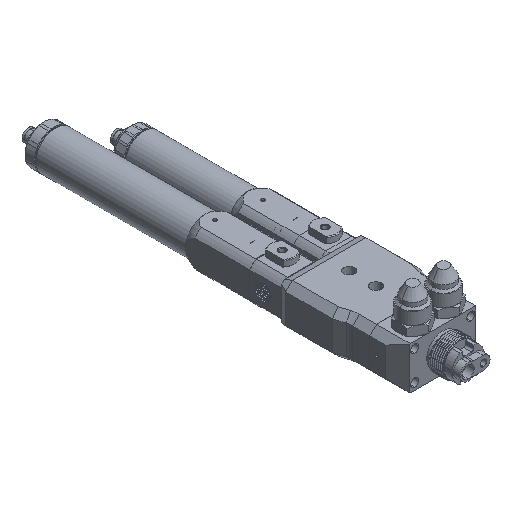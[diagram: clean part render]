
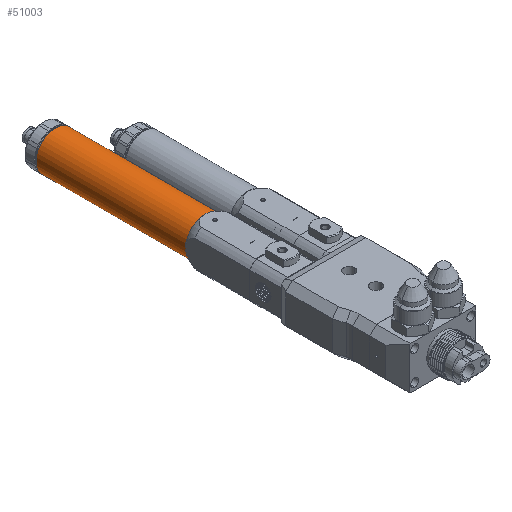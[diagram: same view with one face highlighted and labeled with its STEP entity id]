
A CAD part, isometric view. The second image highlights one B-rep face of the part: STEP entity #51003.
In plain terms, the highlighted cylindrical face has radius 14.5 mm (diameter 29 mm), a full revolution.
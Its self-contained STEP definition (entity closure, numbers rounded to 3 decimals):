
#908 = CARTESIAN_POINT ( 'NONE',  ( -196.632, -2.398, 987.004 ) ) ;
#6002 = DIRECTION ( 'NONE',  ( 0., 0., -1. ) ) ;
#8536 = CARTESIAN_POINT ( 'NONE',  ( -196.632, 113.339, 972.504 ) ) ;
#8693 = VERTEX_POINT ( 'NONE', #42860 ) ;
#8741 = FACE_OUTER_BOUND ( 'NONE', #42894, .T. ) ;
#12832 = DIRECTION ( 'NONE',  ( 0., 1., 0. ) ) ;
#13363 = VERTEX_POINT ( 'NONE', #8536 ) ;
#13554 = EDGE_CURVE ( 'NONE', #17511, #13363, #39791, .T. ) ;
#14194 = AXIS2_PLACEMENT_3D ( 'NONE', #23875, #28394, #34910 ) ;
#14494 = AXIS2_PLACEMENT_3D ( 'NONE', #45440, #18968, #37340 ) ;
#17377 = VERTEX_POINT ( 'NONE', #44223 ) ;
#17511 = VERTEX_POINT ( 'NONE', #20785 ) ;
#18494 = AXIS2_PLACEMENT_3D ( 'NONE', #54486, #54190, #30780 ) ;
#18968 = DIRECTION ( 'NONE',  ( 0., -1., 0. ) ) ;
#19031 = DIRECTION ( 'NONE',  ( 0., -1., 0. ) ) ;
#20785 = CARTESIAN_POINT ( 'NONE',  ( -196.632, 113.339, 1001.504 ) ) ;
#20968 = EDGE_CURVE ( 'NONE', #8693, #23110, #44949, .T. ) ;
#23110 = VERTEX_POINT ( 'NONE', #44905 ) ;
#23127 = ORIENTED_EDGE ( 'NONE', *, *, #29446, .T. ) ;
#23875 = CARTESIAN_POINT ( 'NONE',  ( -196.632, 1.539, 987.004 ) ) ;
#24922 = AXIS2_PLACEMENT_3D ( 'NONE', #40790, #59079, #44692 ) ;
#26398 = ORIENTED_EDGE ( 'NONE', *, *, #44677, .T. ) ;
#27279 = ORIENTED_EDGE ( 'NONE', *, *, #52834, .T. ) ;
#28259 = AXIS2_PLACEMENT_3D ( 'NONE', #51470, #19031, #46370 ) ;
#28394 = DIRECTION ( 'NONE',  ( 0., 1., 0. ) ) ;
#29446 = EDGE_CURVE ( 'NONE', #33850, #17377, #29958, .T. ) ;
#29958 = CIRCLE ( 'NONE', #18494, 14.5 ) ;
#30780 = DIRECTION ( 'NONE',  ( 0., 0., -1. ) ) ;
#31186 = DIRECTION ( 'NONE',  ( 0., 0., -1. ) ) ;
#31774 = CARTESIAN_POINT ( 'NONE',  ( -196.632, 1.539, 987.004 ) ) ;
#33850 = VERTEX_POINT ( 'NONE', #58244 ) ;
#34910 = DIRECTION ( 'NONE',  ( 0., 0., -1. ) ) ;
#37340 = DIRECTION ( 'NONE',  ( 0., 0., -1. ) ) ;
#39791 = CIRCLE ( 'NONE', #28259, 14.5 ) ;
#40588 = ORIENTED_EDGE ( 'NONE', *, *, #20968, .T. ) ;
#40790 = CARTESIAN_POINT ( 'NONE',  ( -196.632, 1.539, 987.004 ) ) ;
#41422 = CIRCLE ( 'NONE', #14494, 14.5 ) ;
#42099 = DIRECTION ( 'NONE',  ( 0., -1., 0. ) ) ;
#42664 = CIRCLE ( 'NONE', #53294, 14.5 ) ;
#42737 = ORIENTED_EDGE ( 'NONE', *, *, #42963, .T. ) ;
#42860 = CARTESIAN_POINT ( 'NONE',  ( -196.632, 1.539, 972.504 ) ) ;
#42894 = EDGE_LOOP ( 'NONE', ( #49096, #26398 ) ) ;
#42963 = EDGE_CURVE ( 'NONE', #17377, #8693, #50819, .T. ) ;
#44223 = CARTESIAN_POINT ( 'NONE',  ( -182.132, 1.539, 987.004 ) ) ;
#44585 = AXIS2_PLACEMENT_3D ( 'NONE', #908, #42099, #6002 ) ;
#44677 = EDGE_CURVE ( 'NONE', #13363, #17511, #41422, .T. ) ;
#44692 = DIRECTION ( 'NONE',  ( 0., 0., -1. ) ) ;
#44905 = CARTESIAN_POINT ( 'NONE',  ( -211.132, 1.539, 987.004 ) ) ;
#44949 = CIRCLE ( 'NONE', #14194, 14.5 ) ;
#45440 = CARTESIAN_POINT ( 'NONE',  ( -196.632, 113.339, 987.004 ) ) ;
#46370 = DIRECTION ( 'NONE',  ( 0., 0., -1. ) ) ;
#47175 = EDGE_LOOP ( 'NONE', ( #42737, #40588, #27279, #23127 ) ) ;
#49096 = ORIENTED_EDGE ( 'NONE', *, *, #13554, .T. ) ;
#49619 = FACE_OUTER_BOUND ( 'NONE', #47175, .T. ) ;
#50777 = CYLINDRICAL_SURFACE ( 'NONE', #44585, 14.5 ) ;
#50819 = CIRCLE ( 'NONE', #24922, 14.5 ) ;
#51003 = ADVANCED_FACE ( 'NONE', ( #49619, #8741 ), #50777, .T. ) ;
#51470 = CARTESIAN_POINT ( 'NONE',  ( -196.632, 113.339, 987.004 ) ) ;
#52834 = EDGE_CURVE ( 'NONE', #23110, #33850, #42664, .T. ) ;
#53294 = AXIS2_PLACEMENT_3D ( 'NONE', #31774, #12832, #31186 ) ;
#54190 = DIRECTION ( 'NONE',  ( 0., 1., 0. ) ) ;
#54486 = CARTESIAN_POINT ( 'NONE',  ( -196.632, 1.539, 987.004 ) ) ;
#58244 = CARTESIAN_POINT ( 'NONE',  ( -196.632, 1.539, 1001.504 ) ) ;
#59079 = DIRECTION ( 'NONE',  ( 0., 1., 0. ) ) ;
